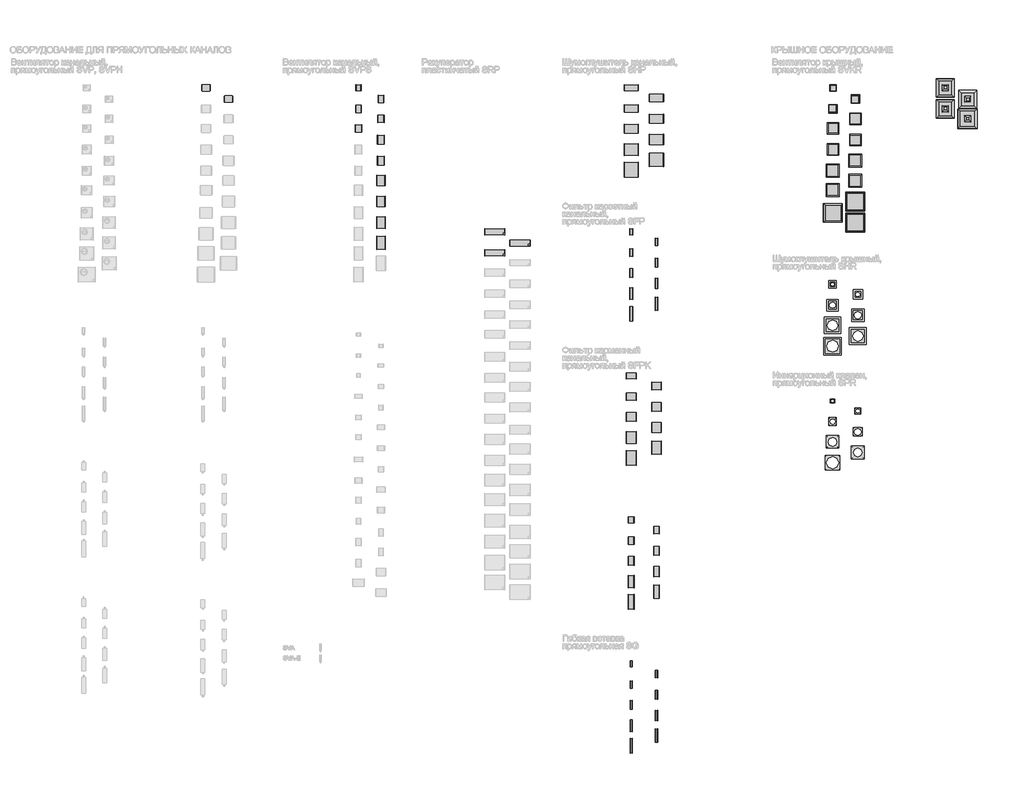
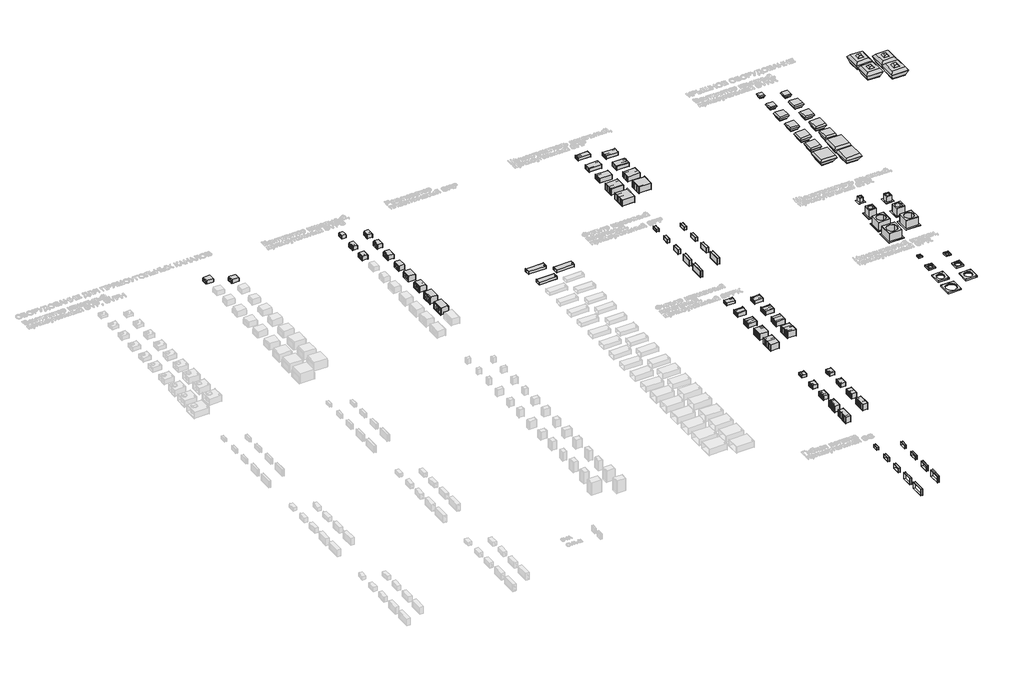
# One storey, part 3 of 31: 59 dampers, 34 proxies.
"""IFC4 building model written with IfcOpenShell, lengths in millimetres."""

from ifc_helpers import new_model, si_unit, origin, place, context, project, spatial, transform, mapped, element, save
from components import mechanical_equipment_20f9e066, mechanical_equipment_0b55b7ea, mechanical_equipment_00d14a69, mechanical_equipment_ee68b9a7, mechanical_equipment_4dfd0f60, mechanical_equipment_14663cc1, mechanical_equipment_2d692213, mechanical_equipment_a6f259df, mechanical_equipment_ec7d1ba4, mechanical_equipment_2ee8b890, mechanical_equipment_5d675786, mechanical_equipment_da63913f, mechanical_equipment_ac5a58c9, mechanical_equipment_f1deef69, mechanical_equipment_66dcccd3, mechanical_equipment_ddfa0483, mechanical_equipment_d0f6e731, mechanical_equipment_a233ed20, mechanical_equipment_77ae78ec, mechanical_equipment_16eab25d, damper_9e3b55d0, damper_089dc460, damper_69c0c055, damper_8f06f76a, damper_6a134a28, damper_c593be3b, damper_dda16d9e, damper_a22f18f7, damper_d678f62c, damper_48062f46, damper_a282fd26, damper_3ba38145, damper_45b8d120, damper_8a3483a6, damper_776b84f0, damper_000e9e42, damper_0f03f78e, damper_f43ba095, sfp_1000x500_14118d60, sfp_400x200_9fdaacf7, sfp_500x250_ae209877, sfp_500x300_c732ff67, sfp_600x300_8e56e998, sfp_600x350_8cb88e79, sfp_700x400_63a0177b, sfp_800x500_3db78f44, sfp_900x500_36470b2f, sg_1000x500_4b4f1b7d, sg_400x200_c22b9768, sg_500x250_38d528e1, sg_500x300_5d0ab898, sg_600x300_c0da051b, sg_600x350_6535a138, sg_700x400_2251ce74, sg_800x500_95428ab8, sg_900x500_4b1ce5bb, shp_1000x500_eaa1802b, shp_400x200_077cb804, shp_500x250_99d944e7, shp_500x300_1f269637, shp_600x300_ced5555b, shp_600x350_d1743a3e, shp_700x400_b8248500, shp_800x500_06faf96d, shp_900x500_852b0d35, shr_100_1206469c, shr_30_7cf82bdc, shr_40_ebd12005, shr_56_5cfe1be8, shr_63_88a6ad4f, shr_90_ec80b47c, shr_94_a10fe94a, spr_100_0115b411, spr_30_7c3b2528, spr_40_4a25b722, spr_56_3c2c66e6, spr_63_234a094d, spr_90_b4306791, spr_94_8e47aa8c

model = new_model("IFC4")

# Units and contexts
model_context = context("Model", 3, world=origin())
ifc_project = project(units=[si_unit("LENGTHUNIT", "METRE", prefix="MILLI")], contexts=[model_context])

# Site, building, storey
site = spatial("IfcSite", under=ifc_project)
building = spatial("IfcBuilding", under=site)
storey = spatial("IfcBuildingStorey", under=building, Name="Этаж 01", Elevation=0.0)

# Proxies
placement = place(None, origin())
mechanical_equipment_shape = mechanical_equipment_20f9e066(model_context)
element("IfcBuildingElementProxy", 1, Name="СВ_Вентилятор_КанальныйПрямоугольный_200-1000_SVP-SVPH : SVPH-400x200/200.4Е", ObjectType="СВ_Вентилятор_КанальныйПрямоугольный_200-1000_SVP-SVPH : SVPH-400x200/200.4Е", at=placement, inside=storey, context=model_context, shape_type="MappedRepresentation", body=[
    mapped(mechanical_equipment_shape, transform((36868.018566, -4100.0, 0.0), x_axis=(1.0, 0.0, 0.0), y_axis=(0.0, 1.0, 0.0), z_axis=(0.0, 0.0, 1.0))),
])
element("IfcBuildingElementProxy", 2, Name="СВ_Вентилятор_КанальныйПрямоугольный_200-1000_SVP-SVPH : SVPH-400x200/200.4D", ObjectType="СВ_Вентилятор_КанальныйПрямоугольный_200-1000_SVP-SVPH : SVPH-400x200/200.4D", at=placement, inside=storey, context=model_context, shape_type="MappedRepresentation", body=[
    mapped(mechanical_equipment_shape, transform((38468.018566, -4900.0, 0.0), x_axis=(1.0, 0.0, 0.0), y_axis=(0.0, 1.0, 0.0), z_axis=(0.0, 0.0, 1.0))),
])
mechanical_equipment_2_shape = mechanical_equipment_0b55b7ea(model_context)
element("IfcBuildingElementProxy", 3, Name="СВ_Вентилятор_КанальныйПрямоугольный_200-1000_SVPS : SVPS-400x200/18.2D", ObjectType="СВ_Вентилятор_КанальныйПрямоугольный_200-1000_SVPS : SVPS-400x200/18.2D", at=placement, inside=storey, context=model_context, shape_type="MappedRepresentation", body=[
    mapped(mechanical_equipment_2_shape, transform((47719.2858067, -4100.0, 0.0), x_axis=(1.0, 0.0, 0.0), y_axis=(0.0, 1.0, 0.0), z_axis=(0.0, 0.0, 1.0))),
])
mechanical_equipment_3_shape = mechanical_equipment_00d14a69(model_context)
element("IfcBuildingElementProxy", 4, Name="СВ_Вентилятор_КанальныйПрямоугольный_200-1000_SVPS : SVPS-500x250/20.2D", ObjectType="СВ_Вентилятор_КанальныйПрямоугольный_200-1000_SVPS : SVPS-500x250/20.2D", at=placement, inside=storey, context=model_context, shape_type="MappedRepresentation", body=[
    mapped(mechanical_equipment_3_shape, transform((49319.2858067, -4900.0, 0.0), x_axis=(1.0, 0.0, 0.0), y_axis=(0.0, 1.0, 0.0), z_axis=(0.0, 0.0, 1.0))),
])
mechanical_equipment_4_shape = mechanical_equipment_ee68b9a7(model_context)
element("IfcBuildingElementProxy", 5, Name="СВ_Вентилятор_КанальныйПрямоугольный_200-1000_SVPS : SVPS-500x250/22.2D", ObjectType="СВ_Вентилятор_КанальныйПрямоугольный_200-1000_SVPS : SVPS-500x250/22.2D", at=placement, inside=storey, context=model_context, shape_type="MappedRepresentation", body=[
    mapped(mechanical_equipment_4_shape, transform((47719.2858067, -5600.0, 0.0), x_axis=(1.0, 0.0, 0.0), y_axis=(0.0, 1.0, 0.0), z_axis=(0.0, 0.0, 1.0))),
])
mechanical_equipment_5_shape = mechanical_equipment_4dfd0f60(model_context)
element("IfcBuildingElementProxy", 6, Name="СВ_Вентилятор_КанальныйПрямоугольный_200-1000_SVPS : SVPS-500x300/22.2D", ObjectType="СВ_Вентилятор_КанальныйПрямоугольный_200-1000_SVPS : SVPS-500x300/22.2D", at=placement, inside=storey, context=model_context, shape_type="MappedRepresentation", body=[
    mapped(mechanical_equipment_5_shape, transform((49319.2858067, -6300.0, 0.0), x_axis=(1.0, 0.0, 0.0), y_axis=(0.0, 1.0, 0.0), z_axis=(0.0, 0.0, 1.0))),
])
mechanical_equipment_6_shape = mechanical_equipment_14663cc1(model_context)
element("IfcBuildingElementProxy", 7, Name="СВ_Вентилятор_КанальныйПрямоугольный_200-1000_SVPS : SVPS-500x300/25.2D", ObjectType="СВ_Вентилятор_КанальныйПрямоугольный_200-1000_SVPS : SVPS-500x300/25.2D", at=placement, inside=storey, context=model_context, shape_type="MappedRepresentation", body=[
    mapped(mechanical_equipment_6_shape, transform((47719.2858067, -7000.0, 0.0), x_axis=(1.0, 0.0, 0.0), y_axis=(0.0, 1.0, 0.0), z_axis=(0.0, 0.0, 1.0))),
])
mechanical_equipment_7_shape = mechanical_equipment_2d692213(model_context)
element("IfcBuildingElementProxy", 8, Name="СВ_Вентилятор_КанальныйПрямоугольный_200-1000_SVPS : SVPS-600x300/25.2D", ObjectType="СВ_Вентилятор_КанальныйПрямоугольный_200-1000_SVPS : SVPS-600x300/25.2D", at=placement, inside=storey, context=model_context, shape_type="MappedRepresentation", body=[
    mapped(mechanical_equipment_7_shape, transform((49319.2858067, -7800.0, 0.0), x_axis=(1.0, 0.0, 0.0), y_axis=(0.0, 1.0, 0.0), z_axis=(0.0, 0.0, 1.0))),
])
mechanical_equipment_8_shape = mechanical_equipment_a6f259df(model_context)
element("IfcBuildingElementProxy", 9, Name="СВ_Вентилятор_КанальныйПрямоугольный_200-1000_SVPS : SVPS-600x350/28.2D", ObjectType="СВ_Вентилятор_КанальныйПрямоугольный_200-1000_SVPS : SVPS-600x350/28.2D", at=placement, inside=storey, context=model_context, shape_type="MappedRepresentation", body=[
    mapped(mechanical_equipment_8_shape, transform((49319.2858067, -9300.0, 0.0), x_axis=(1.0, 0.0, 0.0), y_axis=(0.0, 1.0, 0.0), z_axis=(0.0, 0.0, 1.0))),
])
mechanical_equipment_9_shape = mechanical_equipment_ec7d1ba4(model_context)
element("IfcBuildingElementProxy", 10, Name="СВ_Вентилятор_КанальныйПрямоугольный_200-1000_SVPS : SVPS-700x400/31.2DM", ObjectType="СВ_Вентилятор_КанальныйПрямоугольный_200-1000_SVPS : SVPS-700x400/31.2DM", at=placement, inside=storey, context=model_context, shape_type="MappedRepresentation", body=[
    mapped(mechanical_equipment_9_shape, transform((49319.2858067, -10700.0, 0.0), x_axis=(1.0, 0.0, 0.0), y_axis=(0.0, 1.0, 0.0), z_axis=(0.0, 0.0, 1.0))),
])
mechanical_equipment_10_shape = mechanical_equipment_2ee8b890(model_context)
element("IfcBuildingElementProxy", 11, Name="СВ_Вентилятор_КанальныйПрямоугольный_200-1000_SVPS : SVPS-700x400/35.2D", ObjectType="СВ_Вентилятор_КанальныйПрямоугольный_200-1000_SVPS : SVPS-700x400/35.2D", at=placement, inside=storey, context=model_context, shape_type="MappedRepresentation", body=[
    mapped(mechanical_equipment_10_shape, transform((49319.2858067, -12200.0, 0.0), x_axis=(1.0, 0.0, 0.0), y_axis=(0.0, 1.0, 0.0), z_axis=(0.0, 0.0, 1.0))),
])
mechanical_equipment_11_shape = mechanical_equipment_5d675786(model_context)
element("IfcBuildingElementProxy", 12, Name="СВ_Вентилятор_КанальныйПрямоугольный_200-1000_SVPS : SVPS-800x500/40.4D", ObjectType="СВ_Вентилятор_КанальныйПрямоугольный_200-1000_SVPS : SVPS-800x500/40.4D", at=placement, inside=storey, context=model_context, shape_type="MappedRepresentation", body=[
    mapped(mechanical_equipment_11_shape, transform((49319.2858067, -13700.0, 0.0), x_axis=(1.0, 0.0, 0.0), y_axis=(0.0, 1.0, 0.0), z_axis=(0.0, 0.0, 1.0))),
])
mechanical_equipment_12_shape = mechanical_equipment_da63913f(model_context)
element("IfcBuildingElementProxy", 13, Name="СВ_Вентилятор_КанальныйПрямоугольный_200-1000_SVPS : SVPS-900x500/40.2D", ObjectType="СВ_Вентилятор_КанальныйПрямоугольный_200-1000_SVPS : SVPS-900x500/40.2D", at=placement, inside=storey, context=model_context, shape_type="MappedRepresentation", body=[
    mapped(mechanical_equipment_12_shape, transform((49319.2858067, -15140.0, 0.0), x_axis=(1.0, 0.0, 0.0), y_axis=(0.0, 1.0, 0.0), z_axis=(0.0, 0.0, 1.0))),
])
mechanical_equipment_13_shape = mechanical_equipment_ac5a58c9(model_context)
element("IfcBuildingElementProxy", 14, Name="СВ_Вентилятор_КрышныйПрямоугольный_30-90_SVKR : SVKR 30/22.2E", ObjectType="СВ_Вентилятор_КрышныйПрямоугольный_30-90_SVKR : SVKR 30/22.2E", at=placement, inside=storey, context=model_context, shape_type="MappedRepresentation", body=[
    mapped(mechanical_equipment_13_shape, transform((81488.018566, -4100.0, 0.0), x_axis=(1.0, 0.0, 0.0), y_axis=(0.0, 1.0, 0.0), z_axis=(0.0, 0.0, 1.0))),
])
mechanical_equipment_14_shape = mechanical_equipment_f1deef69(model_context)
element("IfcBuildingElementProxy", 15, Name="СВ_Вентилятор_КрышныйПрямоугольный_30-90_SVKR : SVKR 40/31.4D", ObjectType="СВ_Вентилятор_КрышныйПрямоугольный_30-90_SVKR : SVKR 40/31.4D", at=placement, inside=storey, context=model_context, shape_type="MappedRepresentation", body=[
    mapped(mechanical_equipment_14_shape, transform((83088.018566, -4900.0, 0.0), x_axis=(1.0, 0.0, 0.0), y_axis=(0.0, 1.0, 0.0), z_axis=(0.0, 0.0, 1.0))),
])
element("IfcBuildingElementProxy", 16, Name="СВ_Вентилятор_КрышныйПрямоугольный_30-90_SVKR : SVKR 40/32.4D", ObjectType="СВ_Вентилятор_КрышныйПрямоугольный_30-90_SVKR : SVKR 40/32.4D", at=placement, inside=storey, context=model_context, shape_type="MappedRepresentation", body=[
    mapped(mechanical_equipment_14_shape, transform((81488.018566, -5600.0, 0.0), x_axis=(1.0, 0.0, 0.0), y_axis=(0.0, 1.0, 0.0), z_axis=(0.0, 0.0, 1.0))),
])
mechanical_equipment_15_shape = mechanical_equipment_66dcccd3(model_context)
element("IfcBuildingElementProxy", 17, Name="СВ_Вентилятор_КрышныйПрямоугольный_30-90_SVKR : SVKR 56/35.4E", ObjectType="СВ_Вентилятор_КрышныйПрямоугольный_30-90_SVKR : SVKR 56/35.4E", at=placement, inside=storey, context=model_context, shape_type="MappedRepresentation", body=[
    mapped(mechanical_equipment_15_shape, transform((83088.018566, -6300.0, 0.0), x_axis=(1.0, 0.0, 0.0), y_axis=(0.0, 1.0, 0.0), z_axis=(0.0, 0.0, 1.0))),
])
element("IfcBuildingElementProxy", 18, Name="СВ_Вентилятор_КрышныйПрямоугольный_30-90_SVKR : SVKR 56/35.4D", ObjectType="СВ_Вентилятор_КрышныйПрямоугольный_30-90_SVKR : SVKR 56/35.4D", at=placement, inside=storey, context=model_context, shape_type="MappedRepresentation", body=[
    mapped(mechanical_equipment_15_shape, transform((81488.018566, -7000.0, 0.0), x_axis=(1.0, 0.0, 0.0), y_axis=(0.0, 1.0, 0.0), z_axis=(0.0, 0.0, 1.0))),
])
element("IfcBuildingElementProxy", 19, Name="СВ_Вентилятор_КрышныйПрямоугольный_30-90_SVKR : SVKR 56/40.4E", ObjectType="СВ_Вентилятор_КрышныйПрямоугольный_30-90_SVKR : SVKR 56/40.4E", at=placement, inside=storey, context=model_context, shape_type="MappedRepresentation", body=[
    mapped(mechanical_equipment_15_shape, transform((83088.018566, -7800.0, 0.0), x_axis=(1.0, 0.0, 0.0), y_axis=(0.0, 1.0, 0.0), z_axis=(0.0, 0.0, 1.0))),
])
element("IfcBuildingElementProxy", 20, Name="СВ_Вентилятор_КрышныйПрямоугольный_30-90_SVKR : SVKR 56/40.4D", ObjectType="СВ_Вентилятор_КрышныйПрямоугольный_30-90_SVKR : SVKR 56/40.4D", at=placement, inside=storey, context=model_context, shape_type="MappedRepresentation", body=[
    mapped(mechanical_equipment_15_shape, transform((81488.018566, -8500.0, 0.0), x_axis=(1.0, 0.0, 0.0), y_axis=(0.0, 1.0, 0.0), z_axis=(0.0, 0.0, 1.0))),
])
mechanical_equipment_16_shape = mechanical_equipment_ddfa0483(model_context)
element("IfcBuildingElementProxy", 21, Name="СВ_Вентилятор_КрышныйПрямоугольный_30-90_SVKR : SVKR 63/45.4E", ObjectType="СВ_Вентилятор_КрышныйПрямоугольный_30-90_SVKR : SVKR 63/45.4E", at=placement, inside=storey, context=model_context, shape_type="MappedRepresentation", body=[
    mapped(mechanical_equipment_16_shape, transform((83088.018566, -9300.0, 0.0), x_axis=(1.0, 0.0, 0.0), y_axis=(0.0, 1.0, 0.0), z_axis=(0.0, 0.0, 1.0))),
])
element("IfcBuildingElementProxy", 22, Name="СВ_Вентилятор_КрышныйПрямоугольный_30-90_SVKR : SVKR 63/45.4D", ObjectType="СВ_Вентилятор_КрышныйПрямоугольный_30-90_SVKR : SVKR 63/45.4D", at=placement, inside=storey, context=model_context, shape_type="MappedRepresentation", body=[
    mapped(mechanical_equipment_16_shape, transform((81488.018566, -10000.0, 0.0), x_axis=(1.0, 0.0, 0.0), y_axis=(0.0, 1.0, 0.0), z_axis=(0.0, 0.0, 1.0))),
])
element("IfcBuildingElementProxy", 23, Name="СВ_Вентилятор_КрышныйПрямоугольный_30-90_SVKR : SVKR 63/50.4D", ObjectType="СВ_Вентилятор_КрышныйПрямоугольный_30-90_SVKR : SVKR 63/50.4D", at=placement, inside=storey, context=model_context, shape_type="MappedRepresentation", body=[
    mapped(mechanical_equipment_16_shape, transform((83088.018566, -10700.0, 0.0), x_axis=(1.0, 0.0, 0.0), y_axis=(0.0, 1.0, 0.0), z_axis=(0.0, 0.0, 1.0))),
])
element("IfcBuildingElementProxy", 24, Name="СВ_Вентилятор_КрышныйПрямоугольный_30-90_SVKR : SVKR 63/50.6D", ObjectType="СВ_Вентилятор_КрышныйПрямоугольный_30-90_SVKR : SVKR 63/50.6D", at=placement, inside=storey, context=model_context, shape_type="MappedRepresentation", body=[
    mapped(mechanical_equipment_16_shape, transform((81488.018566, -11400.0, 0.0), x_axis=(1.0, 0.0, 0.0), y_axis=(0.0, 1.0, 0.0), z_axis=(0.0, 0.0, 1.0))),
])
mechanical_equipment_17_shape = mechanical_equipment_d0f6e731(model_context)
element("IfcBuildingElementProxy", 25, Name="СВ_Вентилятор_КрышныйПрямоугольный_30-90_SVKR : SVKR 90/56.4D", ObjectType="СВ_Вентилятор_КрышныйПрямоугольный_30-90_SVKR : SVKR 90/56.4D", at=placement, inside=storey, context=model_context, shape_type="MappedRepresentation", body=[
    mapped(mechanical_equipment_17_shape, transform((83088.018566, -12200.0, 0.0), x_axis=(1.0, 0.0, 0.0), y_axis=(0.0, 1.0, 0.0), z_axis=(0.0, 0.0, 1.0))),
])
element("IfcBuildingElementProxy", 26, Name="СВ_Вентилятор_КрышныйПрямоугольный_30-90_SVKR : SVKR 90/56.6D", ObjectType="СВ_Вентилятор_КрышныйПрямоугольный_30-90_SVKR : SVKR 90/56.6D", at=placement, inside=storey, context=model_context, shape_type="MappedRepresentation", body=[
    mapped(mechanical_equipment_17_shape, transform((81488.018566, -13000.0, 0.0), x_axis=(1.0, 0.0, 0.0), y_axis=(0.0, 1.0, 0.0), z_axis=(0.0, 0.0, 1.0))),
])
element("IfcBuildingElementProxy", 27, Name="СВ_Вентилятор_КрышныйПрямоугольный_30-90_SVKR : SVKR 90/63.6D", ObjectType="СВ_Вентилятор_КрышныйПрямоугольный_30-90_SVKR : SVKR 90/63.6D", at=placement, inside=storey, context=model_context, shape_type="MappedRepresentation", body=[
    mapped(mechanical_equipment_17_shape, transform((83088.018566, -13700.0, 0.0), x_axis=(1.0, 0.0, 0.0), y_axis=(0.0, 1.0, 0.0), z_axis=(0.0, 0.0, 1.0))),
])
mechanical_equipment_18_shape = mechanical_equipment_a233ed20(model_context)
element("IfcBuildingElementProxy", 28, Name="СВ_Вентилятор_КрышныйПрямоугольный_94-100_SVKR : SVKR 94/56.4D", ObjectType="СВ_Вентилятор_КрышныйПрямоугольный_94-100_SVKR : SVKR 94/56.4D", at=placement, inside=storey, context=model_context, shape_type="MappedRepresentation", body=[
    mapped(mechanical_equipment_18_shape, transform((89488.018566, -4100.0, 0.0), x_axis=(1.0, 0.0, 0.0), y_axis=(0.0, 1.0, 0.0), z_axis=(0.0, 0.0, 1.0))),
])
element("IfcBuildingElementProxy", 29, Name="СВ_Вентилятор_КрышныйПрямоугольный_94-100_SVKR : SVKR 94/63.4D", ObjectType="СВ_Вентилятор_КрышныйПрямоугольный_94-100_SVKR : SVKR 94/63.4D", at=placement, inside=storey, context=model_context, shape_type="MappedRepresentation", body=[
    mapped(mechanical_equipment_18_shape, transform((91088.018566, -4900.0, 0.0), x_axis=(1.0, 0.0, 0.0), y_axis=(0.0, 1.0, 0.0), z_axis=(0.0, 0.0, 1.0))),
])
element("IfcBuildingElementProxy", 30, Name="СВ_Вентилятор_КрышныйПрямоугольный_94-100_SVKR : SVKR 94/63.6D", ObjectType="СВ_Вентилятор_КрышныйПрямоугольный_94-100_SVKR : SVKR 94/63.6D", at=placement, inside=storey, context=model_context, shape_type="MappedRepresentation", body=[
    mapped(mechanical_equipment_18_shape, transform((89488.018566, -5600.0, 0.0), x_axis=(1.0, 0.0, 0.0), y_axis=(0.0, 1.0, 0.0), z_axis=(0.0, 0.0, 1.0))),
])
mechanical_equipment_19_shape = mechanical_equipment_77ae78ec(model_context)
element("IfcBuildingElementProxy", 31, Name="СВ_Вентилятор_КрышныйПрямоугольный_94-100_SVKR : SVKR 100/71.6D", ObjectType="СВ_Вентилятор_КрышныйПрямоугольный_94-100_SVKR : SVKR 100/71.6D", at=placement, inside=storey, context=model_context, shape_type="MappedRepresentation", body=[
    mapped(mechanical_equipment_19_shape, transform((91088.018566, -6300.0, 0.0), x_axis=(1.0, 0.0, 0.0), y_axis=(0.0, 1.0, 0.0), z_axis=(0.0, 0.0, 1.0))),
])
mechanical_equipment_20_shape = mechanical_equipment_16eab25d(model_context)
element("IfcBuildingElementProxy", 32, Name="СВ_СекцияБактерициднойОбработкиВоздуха_КанальнаяПрямоугольная_200-1000_SBS : SBS-400x200/32", ObjectType="СВ_СекцияБактерициднойОбработкиВоздуха_КанальнаяПрямоугольная_200-1000_SBS : SBS-400x200/32", at=placement, inside=storey, context=model_context, shape_type="MappedRepresentation", body=[
    mapped(mechanical_equipment_20_shape, transform((57420.8619398, -14358.3925071, 0.0), x_axis=(1.0, 0.0, 0.0), y_axis=(0.0, 1.0, 0.0), z_axis=(0.0, 0.0, 1.0))),
])
element("IfcBuildingElementProxy", 33, Name="СВ_СекцияБактерициднойОбработкиВоздуха_КанальнаяПрямоугольная_200-1000_SBS : SBS-400x200/63", ObjectType="СВ_СекцияБактерициднойОбработкиВоздуха_КанальнаяПрямоугольная_200-1000_SBS : SBS-400x200/63", at=placement, inside=storey, context=model_context, shape_type="MappedRepresentation", body=[
    mapped(mechanical_equipment_20_shape, transform((59220.8619398, -15158.3925071, 0.0), x_axis=(1.0, 0.0, 0.0), y_axis=(0.0, 1.0, 0.0), z_axis=(0.0, 0.0, 1.0))),
])
element("IfcBuildingElementProxy", 34, Name="СВ_СекцияБактерициднойОбработкиВоздуха_КанальнаяПрямоугольная_200-1000_SBS : SBS-400x200/95", ObjectType="СВ_СекцияБактерициднойОбработкиВоздуха_КанальнаяПрямоугольная_200-1000_SBS : SBS-400x200/95", at=placement, inside=storey, context=model_context, shape_type="MappedRepresentation", body=[
    mapped(mechanical_equipment_20_shape, transform((57420.8619398, -15858.3925071, 0.0), x_axis=(1.0, 0.0, 0.0), y_axis=(0.0, 1.0, 0.0), z_axis=(0.0, 0.0, 1.0))),
])

# Dampers
damper_shape = damper_9e3b55d0(model_context)
element("IfcDamper", 35, ObjectType="СВ_ФильтрКарманный_КанальныйПрямоугольный_200-1000_SFPK : SFPK-400x200", at=placement, inside=storey, context=model_context, shape_type="MappedRepresentation", body=[
    mapped(damper_shape, transform((67133.3619398, -24616.7850143, 0.0), x_axis=(1.0, 0.0, 0.0), y_axis=(0.0, 1.0, 0.0), z_axis=(0.0, 0.0, 1.0))),
])
damper_2_shape = damper_089dc460(model_context)
element("IfcDamper", 36, ObjectType="СВ_ФильтрКарманный_КанальныйПрямоугольный_200-1000_SFPK : SFPK-500x250", at=placement, inside=storey, context=model_context, shape_type="MappedRepresentation", body=[
    mapped(damper_2_shape, transform((68933.3619398, -25336.7850143, 0.0), x_axis=(1.0, 0.0, 0.0), y_axis=(0.0, 1.0, 0.0), z_axis=(0.0, 0.0, 1.0))),
])
damper_3_shape = damper_69c0c055(model_context)
element("IfcDamper", 37, ObjectType="СВ_ФильтрКарманный_КанальныйПрямоугольный_200-1000_SFPK : SFPK-500x300", at=placement, inside=storey, context=model_context, shape_type="MappedRepresentation", body=[
    mapped(damper_3_shape, transform((67133.3619398, -26096.7850143, 0.0), x_axis=(1.0, 0.0, 0.0), y_axis=(0.0, 1.0, 0.0), z_axis=(0.0, 0.0, 1.0))),
])
damper_4_shape = damper_8f06f76a(model_context)
element("IfcDamper", 38, ObjectType="СВ_ФильтрКарманный_КанальныйПрямоугольный_200-1000_SFPK : SFPK-600x300", at=placement, inside=storey, context=model_context, shape_type="MappedRepresentation", body=[
    mapped(damper_4_shape, transform((68933.3619398, -26816.7850143, 0.0), x_axis=(1.0, 0.0, 0.0), y_axis=(0.0, 1.0, 0.0), z_axis=(0.0, 0.0, 1.0))),
])
damper_5_shape = damper_6a134a28(model_context)
element("IfcDamper", 39, ObjectType="СВ_ФильтрКарманный_КанальныйПрямоугольный_200-1000_SFPK : SFPK-600x350", at=placement, inside=storey, context=model_context, shape_type="MappedRepresentation", body=[
    mapped(damper_5_shape, transform((67133.3619398, -27536.7850143, 0.0), x_axis=(1.0, 0.0, 0.0), y_axis=(0.0, 1.0, 0.0), z_axis=(0.0, 0.0, 1.0))),
])
damper_6_shape = damper_c593be3b(model_context)
element("IfcDamper", 40, ObjectType="СВ_ФильтрКарманный_КанальныйПрямоугольный_200-1000_SFPK : SFPK-700x400", at=placement, inside=storey, context=model_context, shape_type="MappedRepresentation", body=[
    mapped(damper_6_shape, transform((68933.3619398, -28296.7850143, 0.0), x_axis=(1.0, 0.0, 0.0), y_axis=(0.0, 1.0, 0.0), z_axis=(0.0, 0.0, 1.0))),
])
damper_7_shape = damper_dda16d9e(model_context)
element("IfcDamper", 41, ObjectType="СВ_ФильтрКарманный_КанальныйПрямоугольный_200-1000_SFPK : SFPK-800x500", at=placement, inside=storey, context=model_context, shape_type="MappedRepresentation", body=[
    mapped(damper_7_shape, transform((67133.3619398, -29016.7850143, 0.0), x_axis=(1.0, 0.0, 0.0), y_axis=(0.0, 1.0, 0.0), z_axis=(0.0, 0.0, 1.0))),
])
damper_8_shape = damper_a22f18f7(model_context)
element("IfcDamper", 42, ObjectType="СВ_ФильтрКарманный_КанальныйПрямоугольный_200-1000_SFPK : SFPK-900x500", at=placement, inside=storey, context=model_context, shape_type="MappedRepresentation", body=[
    mapped(damper_8_shape, transform((68933.3619398, -29736.7850143, 0.0), x_axis=(1.0, 0.0, 0.0), y_axis=(0.0, 1.0, 0.0), z_axis=(0.0, 0.0, 1.0))),
])
damper_9_shape = damper_d678f62c(model_context)
element("IfcDamper", 43, ObjectType="СВ_ФильтрКарманный_КанальныйПрямоугольный_200-1000_SFPK : SFPK-1000x500", at=placement, inside=storey, context=model_context, shape_type="MappedRepresentation", body=[
    mapped(damper_9_shape, transform((67133.3619398, -30456.7850143, 0.0), x_axis=(1.0, 0.0, 0.0), y_axis=(0.0, 1.0, 0.0), z_axis=(0.0, 0.0, 1.0))),
])
damper_10_shape = damper_48062f46(model_context)
element("IfcDamper", 44, ObjectType="СВ_ФильтрКарманныйУкороченный_КанальныйПрямоугольный_200-1000_SFPKU : SFPKU-400x200", at=placement, inside=storey, context=model_context, shape_type="MappedRepresentation", body=[
    mapped(damper_10_shape, transform((67133.3619398, -34875.1775214, 0.0), x_axis=(1.0, 0.0, 0.0), y_axis=(0.0, 1.0, 0.0), z_axis=(0.0, 0.0, 1.0))),
])
damper_11_shape = damper_a282fd26(model_context)
element("IfcDamper", 45, ObjectType="СВ_ФильтрКарманныйУкороченный_КанальныйПрямоугольный_200-1000_SFPKU : SFPKU-500x250", at=placement, inside=storey, context=model_context, shape_type="MappedRepresentation", body=[
    mapped(damper_11_shape, transform((68933.3619398, -35595.1775214, 0.0), x_axis=(1.0, 0.0, 0.0), y_axis=(0.0, 1.0, 0.0), z_axis=(0.0, 0.0, 1.0))),
])
damper_12_shape = damper_3ba38145(model_context)
element("IfcDamper", 46, ObjectType="СВ_ФильтрКарманныйУкороченный_КанальныйПрямоугольный_200-1000_SFPKU : SFPKU-500x300", at=placement, inside=storey, context=model_context, shape_type="MappedRepresentation", body=[
    mapped(damper_12_shape, transform((67133.3619398, -36355.1775214, 0.0), x_axis=(1.0, 0.0, 0.0), y_axis=(0.0, 1.0, 0.0), z_axis=(0.0, 0.0, 1.0))),
])
damper_13_shape = damper_45b8d120(model_context)
element("IfcDamper", 47, ObjectType="СВ_ФильтрКарманныйУкороченный_КанальныйПрямоугольный_200-1000_SFPKU : SFPKU-600x300", at=placement, inside=storey, context=model_context, shape_type="MappedRepresentation", body=[
    mapped(damper_13_shape, transform((68933.3619398, -37075.1775214, 0.0), x_axis=(1.0, 0.0, 0.0), y_axis=(0.0, 1.0, 0.0), z_axis=(0.0, 0.0, 1.0))),
])
damper_14_shape = damper_8a3483a6(model_context)
element("IfcDamper", 48, ObjectType="СВ_ФильтрКарманныйУкороченный_КанальныйПрямоугольный_200-1000_SFPKU : SFPKU-600x350", at=placement, inside=storey, context=model_context, shape_type="MappedRepresentation", body=[
    mapped(damper_14_shape, transform((67133.3619398, -37795.1775214, 0.0), x_axis=(1.0, 0.0, 0.0), y_axis=(0.0, 1.0, 0.0), z_axis=(0.0, 0.0, 1.0))),
])
damper_15_shape = damper_776b84f0(model_context)
element("IfcDamper", 49, ObjectType="СВ_ФильтрКарманныйУкороченный_КанальныйПрямоугольный_200-1000_SFPKU : SFPKU-700x400", at=placement, inside=storey, context=model_context, shape_type="MappedRepresentation", body=[
    mapped(damper_15_shape, transform((68933.3619398, -38555.1775214, 0.0), x_axis=(1.0, 0.0, 0.0), y_axis=(0.0, 1.0, 0.0), z_axis=(0.0, 0.0, 1.0))),
])
damper_16_shape = damper_000e9e42(model_context)
element("IfcDamper", 50, ObjectType="СВ_ФильтрКарманныйУкороченный_КанальныйПрямоугольный_200-1000_SFPKU : SFPKU-800x500", at=placement, inside=storey, context=model_context, shape_type="MappedRepresentation", body=[
    mapped(damper_16_shape, transform((67133.3619398, -39275.1775214, 0.0), x_axis=(1.0, 0.0, 0.0), y_axis=(0.0, 1.0, 0.0), z_axis=(0.0, 0.0, 1.0))),
])
damper_17_shape = damper_0f03f78e(model_context)
element("IfcDamper", 51, ObjectType="СВ_ФильтрКарманныйУкороченный_КанальныйПрямоугольный_200-1000_SFPKU : SFPKU-900x500", at=placement, inside=storey, context=model_context, shape_type="MappedRepresentation", body=[
    mapped(damper_17_shape, transform((68933.3619398, -39995.1775214, 0.0), x_axis=(1.0, 0.0, 0.0), y_axis=(0.0, 1.0, 0.0), z_axis=(0.0, 0.0, 1.0))),
])
damper_18_shape = damper_f43ba095(model_context)
element("IfcDamper", 52, ObjectType="СВ_ФильтрКарманныйУкороченный_КанальныйПрямоугольный_200-1000_SFPKU : SFPKU-1000x500", at=placement, inside=storey, context=model_context, shape_type="MappedRepresentation", body=[
    mapped(damper_18_shape, transform((67133.3619398, -40715.1775214, 0.0), x_axis=(1.0, 0.0, 0.0), y_axis=(0.0, 1.0, 0.0), z_axis=(0.0, 0.0, 1.0))),
])
sfp_1000x500_shape = sfp_1000x500_14118d60(model_context)
element("IfcDamper", 53, ObjectType="СВ_ФильтрКассетный_КанальныйПрямоугольный_200-1000_SFP : SFP-1000x500", at=placement, inside=storey, context=model_context, shape_type="MappedRepresentation", body=[
    mapped(sfp_1000x500_shape, transform((67133.3619398, -20198.3925071, 0.0), x_axis=(1.0, 0.0, 0.0), y_axis=(0.0, 1.0, 0.0), z_axis=(0.0, 0.0, 1.0))),
])
sfp_400x200_shape = sfp_400x200_9fdaacf7(model_context)
element("IfcDamper", 54, ObjectType="СВ_ФильтрКассетный_КанальныйПрямоугольный_200-1000_SFP : SFP-400x200", at=placement, inside=storey, context=model_context, shape_type="MappedRepresentation", body=[
    mapped(sfp_400x200_shape, transform((67133.3619398, -14358.3925071, 0.0), x_axis=(1.0, 0.0, 0.0), y_axis=(0.0, 1.0, 0.0), z_axis=(0.0, 0.0, 1.0))),
])
sfp_500x250_shape = sfp_500x250_ae209877(model_context)
element("IfcDamper", 55, ObjectType="СВ_ФильтрКассетный_КанальныйПрямоугольный_200-1000_SFP : SFP-500x250", at=placement, inside=storey, context=model_context, shape_type="MappedRepresentation", body=[
    mapped(sfp_500x250_shape, transform((68933.3619398, -15078.3925071, 0.0), x_axis=(1.0, 0.0, 0.0), y_axis=(0.0, 1.0, 0.0), z_axis=(0.0, 0.0, 1.0))),
])
sfp_500x300_shape = sfp_500x300_c732ff67(model_context)
element("IfcDamper", 56, ObjectType="СВ_ФильтрКассетный_КанальныйПрямоугольный_200-1000_SFP : SFP-500x300", at=placement, inside=storey, context=model_context, shape_type="MappedRepresentation", body=[
    mapped(sfp_500x300_shape, transform((67133.3619398, -15838.3925071, 0.0), x_axis=(1.0, 0.0, 0.0), y_axis=(0.0, 1.0, 0.0), z_axis=(0.0, 0.0, 1.0))),
])
sfp_600x300_shape = sfp_600x300_8e56e998(model_context)
element("IfcDamper", 57, ObjectType="СВ_ФильтрКассетный_КанальныйПрямоугольный_200-1000_SFP : SFP-600x300", at=placement, inside=storey, context=model_context, shape_type="MappedRepresentation", body=[
    mapped(sfp_600x300_shape, transform((68933.3619398, -16558.3925071, 0.0), x_axis=(1.0, 0.0, 0.0), y_axis=(0.0, 1.0, 0.0), z_axis=(0.0, 0.0, 1.0))),
])
sfp_600x350_shape = sfp_600x350_8cb88e79(model_context)
element("IfcDamper", 58, ObjectType="СВ_ФильтрКассетный_КанальныйПрямоугольный_200-1000_SFP : SFP-600x350", at=placement, inside=storey, context=model_context, shape_type="MappedRepresentation", body=[
    mapped(sfp_600x350_shape, transform((67133.3619398, -17278.3925071, 0.0), x_axis=(1.0, 0.0, 0.0), y_axis=(0.0, 1.0, 0.0), z_axis=(0.0, 0.0, 1.0))),
])
sfp_700x400_shape = sfp_700x400_63a0177b(model_context)
element("IfcDamper", 59, ObjectType="СВ_ФильтрКассетный_КанальныйПрямоугольный_200-1000_SFP : SFP-700x400", at=placement, inside=storey, context=model_context, shape_type="MappedRepresentation", body=[
    mapped(sfp_700x400_shape, transform((68933.3619398, -18038.3925071, 0.0), x_axis=(1.0, 0.0, 0.0), y_axis=(0.0, 1.0, 0.0), z_axis=(0.0, 0.0, 1.0))),
])
sfp_800x500_shape = sfp_800x500_3db78f44(model_context)
element("IfcDamper", 60, ObjectType="СВ_ФильтрКассетный_КанальныйПрямоугольный_200-1000_SFP : SFP-800x500", at=placement, inside=storey, context=model_context, shape_type="MappedRepresentation", body=[
    mapped(sfp_800x500_shape, transform((67133.3619398, -18758.3925071, 0.0), x_axis=(1.0, 0.0, 0.0), y_axis=(0.0, 1.0, 0.0), z_axis=(0.0, 0.0, 1.0))),
])
sfp_900x500_shape = sfp_900x500_36470b2f(model_context)
element("IfcDamper", 61, ObjectType="СВ_ФильтрКассетный_КанальныйПрямоугольный_200-1000_SFP : SFP-900x500", at=placement, inside=storey, context=model_context, shape_type="MappedRepresentation", body=[
    mapped(sfp_900x500_shape, transform((68933.3619398, -19478.3925071, 0.0), x_axis=(1.0, 0.0, 0.0), y_axis=(0.0, 1.0, 0.0), z_axis=(0.0, 0.0, 1.0))),
])
sg_1000x500_shape = sg_1000x500_4b4f1b7d(model_context)
element("IfcDamper", 62, ObjectType="СВ_ГибкаяВставка_КанальнаяПрямоугольная_200-1000_SG : SG-1000x500", at=placement, inside=storey, context=model_context, shape_type="MappedRepresentation", body=[
    mapped(sg_1000x500_shape, transform((67133.3619398, -50973.5700286, 0.0), x_axis=(1.0, 0.0, 0.0), y_axis=(0.0, 1.0, 0.0), z_axis=(0.0, 0.0, 1.0))),
])
sg_400x200_shape = sg_400x200_c22b9768(model_context)
element("IfcDamper", 63, ObjectType="СВ_ГибкаяВставка_КанальнаяПрямоугольная_200-1000_SG : SG-400x200", at=placement, inside=storey, context=model_context, shape_type="MappedRepresentation", body=[
    mapped(sg_400x200_shape, transform((67133.3619398, -45133.5700286, 0.0), x_axis=(1.0, 0.0, 0.0), y_axis=(0.0, 1.0, 0.0), z_axis=(0.0, 0.0, 1.0))),
])
sg_500x250_shape = sg_500x250_38d528e1(model_context)
element("IfcDamper", 64, ObjectType="СВ_ГибкаяВставка_КанальнаяПрямоугольная_200-1000_SG : SG-500x250", at=placement, inside=storey, context=model_context, shape_type="MappedRepresentation", body=[
    mapped(sg_500x250_shape, transform((68933.3619398, -45853.5700286, 0.0), x_axis=(1.0, 0.0, 0.0), y_axis=(0.0, 1.0, 0.0), z_axis=(0.0, 0.0, 1.0))),
])
sg_500x300_shape = sg_500x300_5d0ab898(model_context)
element("IfcDamper", 65, ObjectType="СВ_ГибкаяВставка_КанальнаяПрямоугольная_200-1000_SG : SG-500x300", at=placement, inside=storey, context=model_context, shape_type="MappedRepresentation", body=[
    mapped(sg_500x300_shape, transform((67133.3619398, -46613.5700286, 0.0), x_axis=(1.0, 0.0, 0.0), y_axis=(0.0, 1.0, 0.0), z_axis=(0.0, 0.0, 1.0))),
])
sg_600x300_shape = sg_600x300_c0da051b(model_context)
element("IfcDamper", 66, ObjectType="СВ_ГибкаяВставка_КанальнаяПрямоугольная_200-1000_SG : SG-600x300", at=placement, inside=storey, context=model_context, shape_type="MappedRepresentation", body=[
    mapped(sg_600x300_shape, transform((68933.3619398, -47333.5700286, 0.0), x_axis=(1.0, 0.0, 0.0), y_axis=(0.0, 1.0, 0.0), z_axis=(0.0, 0.0, 1.0))),
])
sg_600x350_shape = sg_600x350_6535a138(model_context)
element("IfcDamper", 67, ObjectType="СВ_ГибкаяВставка_КанальнаяПрямоугольная_200-1000_SG : SG-600x350", at=placement, inside=storey, context=model_context, shape_type="MappedRepresentation", body=[
    mapped(sg_600x350_shape, transform((67133.3619398, -48053.5700286, 0.0), x_axis=(1.0, 0.0, 0.0), y_axis=(0.0, 1.0, 0.0), z_axis=(0.0, 0.0, 1.0))),
])
sg_700x400_shape = sg_700x400_2251ce74(model_context)
element("IfcDamper", 68, ObjectType="СВ_ГибкаяВставка_КанальнаяПрямоугольная_200-1000_SG : SG-700x400", at=placement, inside=storey, context=model_context, shape_type="MappedRepresentation", body=[
    mapped(sg_700x400_shape, transform((68933.3619398, -48813.5700286, 0.0), x_axis=(1.0, 0.0, 0.0), y_axis=(0.0, 1.0, 0.0), z_axis=(0.0, 0.0, 1.0))),
])
sg_800x500_shape = sg_800x500_95428ab8(model_context)
element("IfcDamper", 69, ObjectType="СВ_ГибкаяВставка_КанальнаяПрямоугольная_200-1000_SG : SG-800x500", at=placement, inside=storey, context=model_context, shape_type="MappedRepresentation", body=[
    mapped(sg_800x500_shape, transform((67133.3619398, -49533.5700286, 0.0), x_axis=(1.0, 0.0, 0.0), y_axis=(0.0, 1.0, 0.0), z_axis=(0.0, 0.0, 1.0))),
])
sg_900x500_shape = sg_900x500_4b1ce5bb(model_context)
element("IfcDamper", 70, ObjectType="СВ_ГибкаяВставка_КанальнаяПрямоугольная_200-1000_SG : SG-900x500", at=placement, inside=storey, context=model_context, shape_type="MappedRepresentation", body=[
    mapped(sg_900x500_shape, transform((68933.3619398, -50253.5700286, 0.0), x_axis=(1.0, 0.0, 0.0), y_axis=(0.0, 1.0, 0.0), z_axis=(0.0, 0.0, 1.0))),
])
shp_1000x500_shape = shp_1000x500_eaa1802b(model_context)
element("IfcDamper", 71, ObjectType="СВ_Шумоглушитель_КанальныйПрямоугольный_200-1000_SHP : SHP-1000x500", at=placement, inside=storey, context=model_context, shape_type="MappedRepresentation", body=[
    mapped(shp_1000x500_shape, transform((67133.3619398, -9940.0, 0.0), x_axis=(1.0, 0.0, 0.0), y_axis=(0.0, 1.0, 0.0), z_axis=(0.0, 0.0, 1.0))),
])
shp_400x200_shape = shp_400x200_077cb804(model_context)
element("IfcDamper", 72, ObjectType="СВ_Шумоглушитель_КанальныйПрямоугольный_200-1000_SHP : SHP-400x200", at=placement, inside=storey, context=model_context, shape_type="MappedRepresentation", body=[
    mapped(shp_400x200_shape, transform((67133.3619398, -4100.0, 0.0), x_axis=(1.0, 0.0, 0.0), y_axis=(0.0, 1.0, 0.0), z_axis=(0.0, 0.0, 1.0))),
])
shp_500x250_shape = shp_500x250_99d944e7(model_context)
element("IfcDamper", 73, ObjectType="СВ_Шумоглушитель_КанальныйПрямоугольный_200-1000_SHP : SHP-500x250", at=placement, inside=storey, context=model_context, shape_type="MappedRepresentation", body=[
    mapped(shp_500x250_shape, transform((68933.3619398, -4820.0, 0.0), x_axis=(1.0, 0.0, 0.0), y_axis=(0.0, 1.0, 0.0), z_axis=(0.0, 0.0, 1.0))),
])
shp_500x300_shape = shp_500x300_1f269637(model_context)
element("IfcDamper", 74, ObjectType="СВ_Шумоглушитель_КанальныйПрямоугольный_200-1000_SHP : SHP-500x300", at=placement, inside=storey, context=model_context, shape_type="MappedRepresentation", body=[
    mapped(shp_500x300_shape, transform((67133.3619398, -5580.0, 0.0), x_axis=(1.0, 0.0, 0.0), y_axis=(0.0, 1.0, 0.0), z_axis=(0.0, 0.0, 1.0))),
])
shp_600x300_shape = shp_600x300_ced5555b(model_context)
element("IfcDamper", 75, ObjectType="СВ_Шумоглушитель_КанальныйПрямоугольный_200-1000_SHP : SHP-600x300", at=placement, inside=storey, context=model_context, shape_type="MappedRepresentation", body=[
    mapped(shp_600x300_shape, transform((68933.3619398, -6300.0, 0.0), x_axis=(1.0, 0.0, 0.0), y_axis=(0.0, 1.0, 0.0), z_axis=(0.0, 0.0, 1.0))),
])
shp_600x350_shape = shp_600x350_d1743a3e(model_context)
element("IfcDamper", 76, ObjectType="СВ_Шумоглушитель_КанальныйПрямоугольный_200-1000_SHP : SHP-600x350", at=placement, inside=storey, context=model_context, shape_type="MappedRepresentation", body=[
    mapped(shp_600x350_shape, transform((67133.3619398, -7020.0, 0.0), x_axis=(1.0, 0.0, 0.0), y_axis=(0.0, 1.0, 0.0), z_axis=(0.0, 0.0, 1.0))),
])
shp_700x400_shape = shp_700x400_b8248500(model_context)
element("IfcDamper", 77, ObjectType="СВ_Шумоглушитель_КанальныйПрямоугольный_200-1000_SHP : SHP-700x400", at=placement, inside=storey, context=model_context, shape_type="MappedRepresentation", body=[
    mapped(shp_700x400_shape, transform((68933.3619398, -7780.0, 0.0), x_axis=(1.0, 0.0, 0.0), y_axis=(0.0, 1.0, 0.0), z_axis=(0.0, 0.0, 1.0))),
])
shp_800x500_shape = shp_800x500_06faf96d(model_context)
element("IfcDamper", 78, ObjectType="СВ_Шумоглушитель_КанальныйПрямоугольный_200-1000_SHP : SHP-800x500", at=placement, inside=storey, context=model_context, shape_type="MappedRepresentation", body=[
    mapped(shp_800x500_shape, transform((67133.3619398, -8500.0, 0.0), x_axis=(1.0, 0.0, 0.0), y_axis=(0.0, 1.0, 0.0), z_axis=(0.0, 0.0, 1.0))),
])
shp_900x500_shape = shp_900x500_852b0d35(model_context)
element("IfcDamper", 79, ObjectType="СВ_Шумоглушитель_КанальныйПрямоугольный_200-1000_SHP : SHP-900x500", at=placement, inside=storey, context=model_context, shape_type="MappedRepresentation", body=[
    mapped(shp_900x500_shape, transform((68933.3619398, -9220.0, 0.0), x_axis=(1.0, 0.0, 0.0), y_axis=(0.0, 1.0, 0.0), z_axis=(0.0, 0.0, 1.0))),
])
shr_100_shape = shr_100_1206469c(model_context)
element("IfcDamper", 80, ObjectType="СВ_Шумоглушитель_КрышныйПрямоугольный_30-100_SHR : SHR-100", at=placement, inside=storey, context=model_context, shape_type="MappedRepresentation", body=[
    mapped(shr_100_shape, transform((81465.0666486, -22498.7336801, 0.0), x_axis=(1.0, 0.0, 0.0), y_axis=(0.0, 1.0, 0.0), z_axis=(0.0, 0.0, 1.0))),
])
shr_30_shape = shr_30_7cf82bdc(model_context)
element("IfcDamper", 81, ObjectType="СВ_Шумоглушитель_КрышныйПрямоугольный_30-100_SHR : SHR-30", at=placement, inside=storey, context=model_context, shape_type="MappedRepresentation", body=[
    mapped(shr_30_shape, transform((81465.0666486, -18098.7336801, 0.0), x_axis=(1.0, 0.0, 0.0), y_axis=(0.0, 1.0, 0.0), z_axis=(0.0, 0.0, 1.0))),
])
shr_40_shape = shr_40_ebd12005(model_context)
element("IfcDamper", 82, ObjectType="СВ_Шумоглушитель_КрышныйПрямоугольный_30-100_SHR : SHR-40", at=placement, inside=storey, context=model_context, shape_type="MappedRepresentation", body=[
    mapped(shr_40_shape, transform((83265.0666486, -18818.7336801, 0.0), x_axis=(1.0, 0.0, 0.0), y_axis=(0.0, 1.0, 0.0), z_axis=(0.0, 0.0, 1.0))),
])
shr_56_shape = shr_56_5cfe1be8(model_context)
element("IfcDamper", 83, ObjectType="СВ_Шумоглушитель_КрышныйПрямоугольный_30-100_SHR : SHR-56", at=placement, inside=storey, context=model_context, shape_type="MappedRepresentation", body=[
    mapped(shr_56_shape, transform((81465.0666486, -19578.7336801, 0.0), x_axis=(1.0, 0.0, 0.0), y_axis=(0.0, 1.0, 0.0), z_axis=(0.0, 0.0, 1.0))),
])
shr_63_shape = shr_63_88a6ad4f(model_context)
element("IfcDamper", 84, ObjectType="СВ_Шумоглушитель_КрышныйПрямоугольный_30-100_SHR : SHR-63", at=placement, inside=storey, context=model_context, shape_type="MappedRepresentation", body=[
    mapped(shr_63_shape, transform((83265.0666486, -20298.7336801, 0.0), x_axis=(1.0, 0.0, 0.0), y_axis=(0.0, 1.0, 0.0), z_axis=(0.0, 0.0, 1.0))),
])
shr_90_shape = shr_90_ec80b47c(model_context)
element("IfcDamper", 85, ObjectType="СВ_Шумоглушитель_КрышныйПрямоугольный_30-100_SHR : SHR-90", at=placement, inside=storey, context=model_context, shape_type="MappedRepresentation", body=[
    mapped(shr_90_shape, transform((81465.0666486, -21018.7336801, 0.0), x_axis=(1.0, 0.0, 0.0), y_axis=(0.0, 1.0, 0.0), z_axis=(0.0, 0.0, 1.0))),
])
shr_94_shape = shr_94_a10fe94a(model_context)
element("IfcDamper", 86, ObjectType="СВ_Шумоглушитель_КрышныйПрямоугольный_30-100_SHR : SHR-94", at=placement, inside=storey, context=model_context, shape_type="MappedRepresentation", body=[
    mapped(shr_94_shape, transform((83265.0666486, -21778.7336801, 0.0), x_axis=(1.0, 0.0, 0.0), y_axis=(0.0, 1.0, 0.0), z_axis=(0.0, 0.0, 1.0))),
])
spr_100_shape = spr_100_0115b411(model_context)
element("IfcDamper", 87, ObjectType="СВ_КлапанИнерционный_КрышныйПрямоугольный_30-100_SPR : SPR-100", at=placement, inside=storey, context=model_context, shape_type="MappedRepresentation", body=[
    mapped(spr_100_shape, transform((81465.0666486, -30798.7336801, 0.0), x_axis=(1.0, 0.0, 0.0), y_axis=(0.0, 1.0, 0.0), z_axis=(0.0, 0.0, 1.0))),
])
spr_30_shape = spr_30_7c3b2528(model_context)
element("IfcDamper", 88, ObjectType="СВ_КлапанИнерционный_КрышныйПрямоугольный_30-100_SPR : SPR-30", at=placement, inside=storey, context=model_context, shape_type="MappedRepresentation", body=[
    mapped(spr_30_shape, transform((81465.0666486, -26398.7336801, 0.0), x_axis=(1.0, 0.0, 0.0), y_axis=(0.0, 1.0, 0.0), z_axis=(0.0, 0.0, 1.0))),
])
spr_40_shape = spr_40_4a25b722(model_context)
element("IfcDamper", 89, ObjectType="СВ_КлапанИнерционный_КрышныйПрямоугольный_30-100_SPR : SPR-40", at=placement, inside=storey, context=model_context, shape_type="MappedRepresentation", body=[
    mapped(spr_40_shape, transform((83265.0666486, -27118.7336801, 0.0), x_axis=(1.0, 0.0, 0.0), y_axis=(0.0, 1.0, 0.0), z_axis=(0.0, 0.0, 1.0))),
])
spr_56_shape = spr_56_3c2c66e6(model_context)
element("IfcDamper", 90, ObjectType="СВ_КлапанИнерционный_КрышныйПрямоугольный_30-100_SPR : SPR-56", at=placement, inside=storey, context=model_context, shape_type="MappedRepresentation", body=[
    mapped(spr_56_shape, transform((81465.0666486, -27878.7336801, 0.0), x_axis=(1.0, 0.0, 0.0), y_axis=(0.0, 1.0, 0.0), z_axis=(0.0, 0.0, 1.0))),
])
spr_63_shape = spr_63_234a094d(model_context)
element("IfcDamper", 91, ObjectType="СВ_КлапанИнерционный_КрышныйПрямоугольный_30-100_SPR : SPR-63", at=placement, inside=storey, context=model_context, shape_type="MappedRepresentation", body=[
    mapped(spr_63_shape, transform((83265.0666486, -28598.7336801, 0.0), x_axis=(1.0, 0.0, 0.0), y_axis=(0.0, 1.0, 0.0), z_axis=(0.0, 0.0, 1.0))),
])
spr_90_shape = spr_90_b4306791(model_context)
element("IfcDamper", 92, ObjectType="СВ_КлапанИнерционный_КрышныйПрямоугольный_30-100_SPR : SPR-90", at=placement, inside=storey, context=model_context, shape_type="MappedRepresentation", body=[
    mapped(spr_90_shape, transform((81465.0666486, -29318.7336801, 0.0), x_axis=(1.0, 0.0, 0.0), y_axis=(0.0, 1.0, 0.0), z_axis=(0.0, 0.0, 1.0))),
])
spr_94_shape = spr_94_8e47aa8c(model_context)
element("IfcDamper", 93, ObjectType="СВ_КлапанИнерционный_КрышныйПрямоугольный_30-100_SPR : SPR-94", at=placement, inside=storey, context=model_context, shape_type="MappedRepresentation", body=[
    mapped(spr_94_shape, transform((83265.0666486, -30078.7336801, 0.0), x_axis=(1.0, 0.0, 0.0), y_axis=(0.0, 1.0, 0.0), z_axis=(0.0, 0.0, 1.0))),
])

save(model, "model.ifc")
